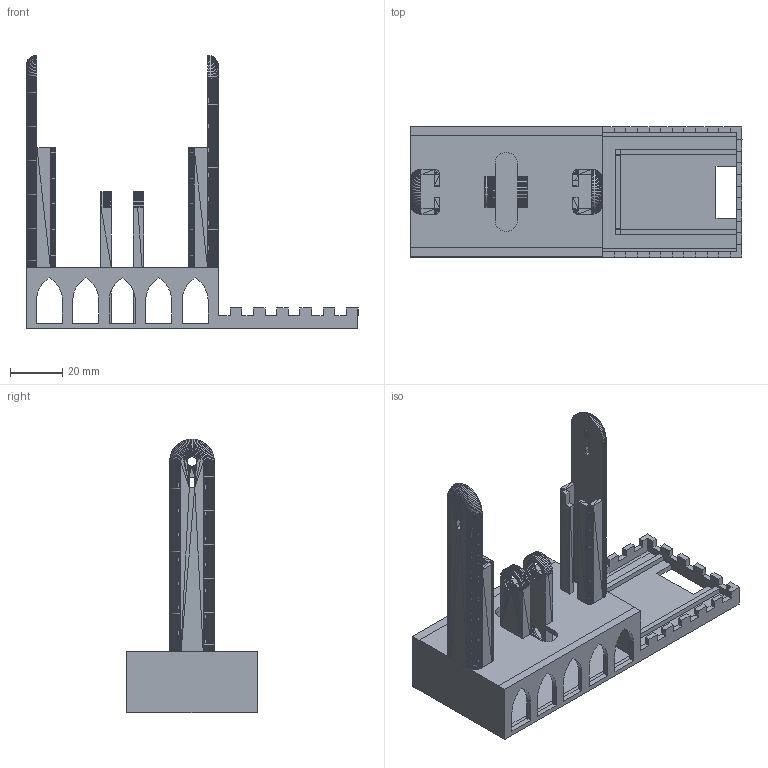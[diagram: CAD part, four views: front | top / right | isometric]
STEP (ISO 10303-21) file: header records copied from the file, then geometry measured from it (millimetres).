
FILE_DESCRIPTION(/* description */ (''),/* implementation_level */ '2;1');
FILE_NAME(/* name */ 'Prototype Dragon Base V2.1',/* time_stamp */ '2025-04-15T11:01:28-04:00',/* author */ (''),/* organization */ (''),/* preprocessor_version */ 'ST-DEVELOPER v19.2',/* originating_system */ 'Rhino 8.18',/* authorisation */ '');
FILE_SCHEMA (('CONFIG_CONTROL_DESIGN'));
Products named in the file (1): Document
Bounding box: 127.61 x 50 x 105.17 mm (x, y, z)
Volume: 44809.2 mm3; surface area: 42058.2 mm2
Topology: 3 solids, 3 shells, 5362 faces, 8938 edges, 3562 vertices
Faces by surface type: plane 5340, bspline 20, cylinder 2
Entity records: 99238 total; most frequent: CARTESIAN_POINT 27695, ORIENTED_EDGE 17870, EDGE_CURVE 8935, B_SPLINE_CURVE_WITH_KNOTS 8893, EDGE_LOOP 5388, ADVANCED_FACE 5362, FACE_OUTER_BOUND 5362, DIRECTION 5356
